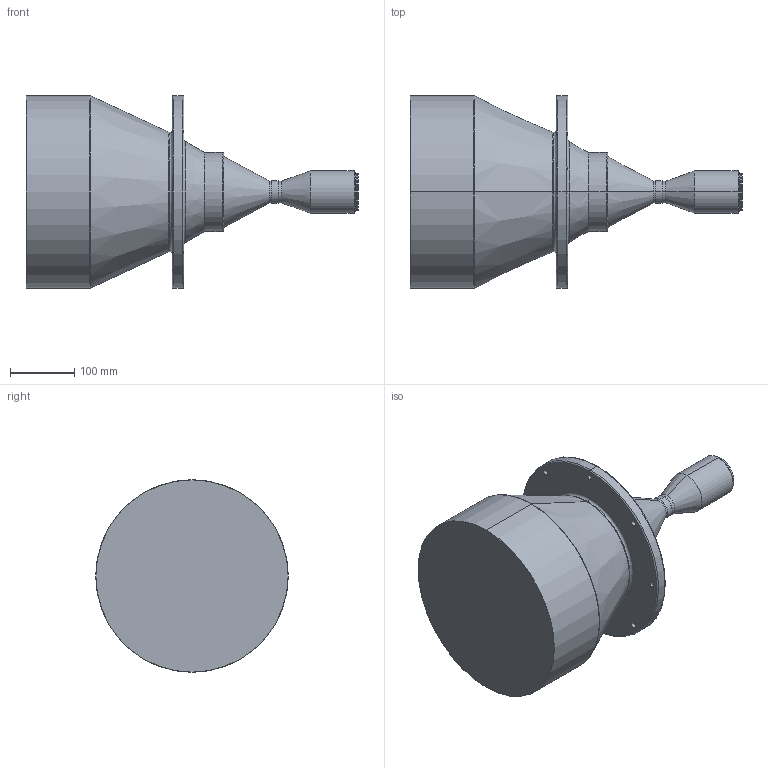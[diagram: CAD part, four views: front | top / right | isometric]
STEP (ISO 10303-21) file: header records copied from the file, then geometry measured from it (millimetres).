
FILE_DESCRIPTION (( 'STEP AP214' ), '1' );
FILE_NAME ('DTCM210-258-M58-AL.STEP', '2019-11-25T01:10:00', ( 'Windows 蚚誧' ), ( '' ), 'SwSTEP 2.0', 'SolidWorks 2017', '' );
FILE_SCHEMA (( 'AUTOMOTIVE_DESIGN' ));
Length unit declared in the file: millimetre
Products named in the file (1): DTCM210-258-M58-AL
Bounding box: 516.9 x 300 x 300 mm (x, y, z)
Volume: 15798375.1 mm3; surface area: 458865.4 mm2
Topology: 1 solids, 1 shells, 71 faces, 156 edges, 94 vertices
Faces by surface type: cylinder 34, torus 14, cone 14, plane 9
Entity records: 2044 total; most frequent: DIRECTION 408, CARTESIAN_POINT 322, ORIENTED_EDGE 312, AXIS2_PLACEMENT_3D 180, EDGE_CURVE 156, CIRCLE 108, EDGE_LOOP 94, VERTEX_POINT 94
